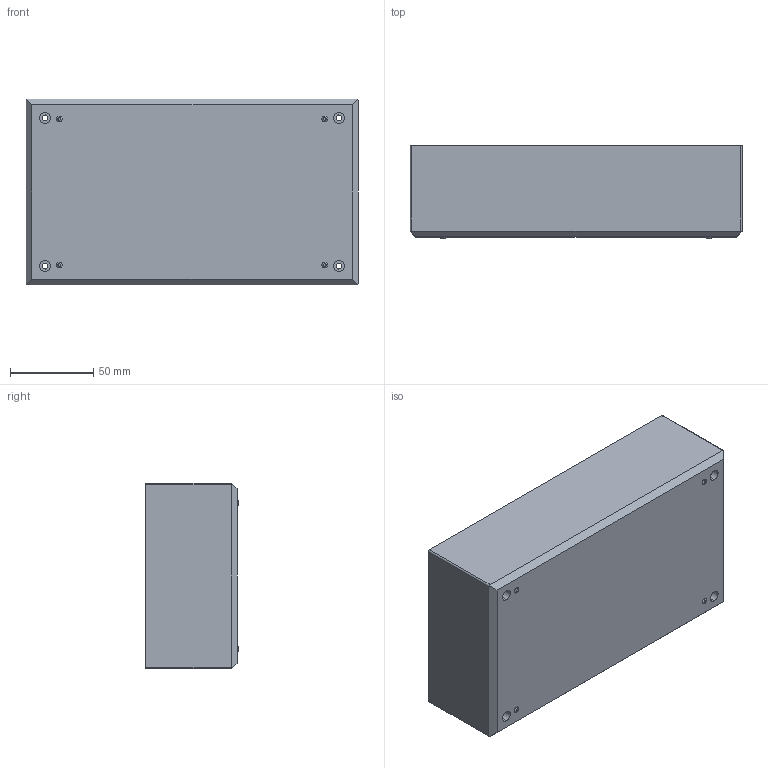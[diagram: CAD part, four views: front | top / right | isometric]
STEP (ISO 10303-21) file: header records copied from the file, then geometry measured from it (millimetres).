
FILE_DESCRIPTION (( 'STEP AP214' ), '1' );
FILE_NAME ('Cuerpo PP60C.STEP', '2016-10-09T13:33:00', ( 'aaa' ), ( '' ), 'SwSTEP 2.0', 'SolidWorks 2013', '' );
FILE_SCHEMA (( 'AUTOMOTIVE_DESIGN' ));
Length unit declared in the file: millimetre
Products named in the file (1): Cuerpo PP60C
Bounding box: 200 x 55.75 x 112 mm (x, y, z)
Volume: 197245.9 mm3; surface area: 120251.6 mm2
Topology: 1 solids, 1 shells, 131 faces, 284 edges, 188 vertices
Faces by surface type: cylinder 64, plane 59, torus 8
Entity records: 3684 total; most frequent: DIRECTION 688, CARTESIAN_POINT 628, ORIENTED_EDGE 568, EDGE_CURVE 284, AXIS2_PLACEMENT_3D 280, VERTEX_POINT 188, EDGE_LOOP 172, CIRCLE 148
